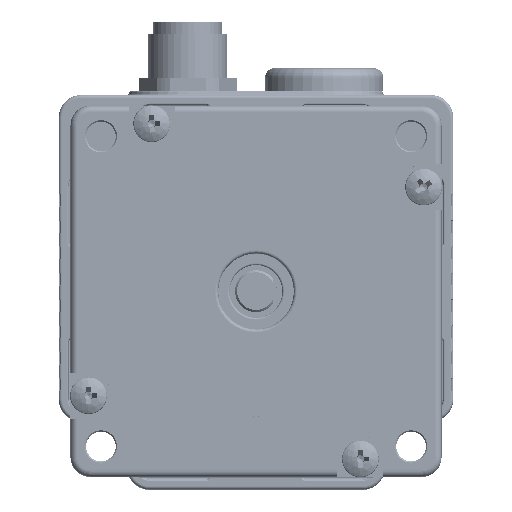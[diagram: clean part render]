
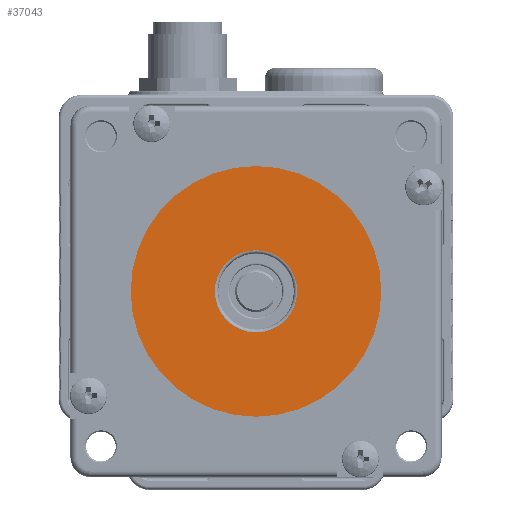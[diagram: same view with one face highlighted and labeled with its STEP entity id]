
A CAD part, top view. The second image highlights one B-rep face of the part: STEP entity #37043.
In plain terms, the highlighted planar face has unit normal (0, 0, 1).
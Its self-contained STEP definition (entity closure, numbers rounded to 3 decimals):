
#1206 = CARTESIAN_POINT ( 'NONE',  ( -60.25, -2.918, 33.1 ) ) ;
#8525 = EDGE_LOOP ( 'NONE', ( #230444, #195196 ) ) ;
#27392 = DIRECTION ( 'NONE',  ( 0., 0., 1. ) ) ;
#35860 = DIRECTION ( 'NONE',  ( 0., 0., -1. ) ) ;
#37043 = ADVANCED_FACE ( 'NONE', ( #156505, #84893 ), #206672, .T. ) ;
#41822 = VERTEX_POINT ( 'NONE', #1206 ) ;
#47416 = EDGE_CURVE ( 'NONE', #59087, #41822, #233920, .T. ) ;
#47888 = DIRECTION ( 'NONE',  ( 0., 0., 1. ) ) ;
#51696 = CARTESIAN_POINT ( 'NONE',  ( -54., -2.918, 33.1 ) ) ;
#59087 = VERTEX_POINT ( 'NONE', #86081 ) ;
#68885 = VERTEX_POINT ( 'NONE', #107129 ) ;
#78815 = EDGE_CURVE ( 'NONE', #41822, #59087, #115780, .T. ) ;
#80671 = DIRECTION ( 'NONE',  ( 1., 0., 0. ) ) ;
#84893 = FACE_OUTER_BOUND ( 'NONE', #8525, .T. ) ;
#86081 = CARTESIAN_POINT ( 'NONE',  ( -47.75, -2.918, 33.1 ) ) ;
#89208 = AXIS2_PLACEMENT_3D ( 'NONE', #51696, #124512, #138820 ) ;
#99096 = CARTESIAN_POINT ( 'NONE',  ( -54., -2.918, 33.1 ) ) ;
#101708 = DIRECTION ( 'NONE',  ( 1., 0., 0. ) ) ;
#107129 = CARTESIAN_POINT ( 'NONE',  ( -34.95, -2.918, 33.1 ) ) ;
#115780 = CIRCLE ( 'NONE', #127139, 6.25 ) ;
#119095 = ORIENTED_EDGE ( 'NONE', *, *, #78815, .T. ) ;
#124512 = DIRECTION ( 'NONE',  ( 0., 0., -1. ) ) ;
#126643 = AXIS2_PLACEMENT_3D ( 'NONE', #137440, #47888, #101708 ) ;
#127139 = AXIS2_PLACEMENT_3D ( 'NONE', #161233, #35860, #195875 ) ;
#135698 = CARTESIAN_POINT ( 'NONE',  ( -73.05, -2.918, 33.1 ) ) ;
#137209 = DIRECTION ( 'NONE',  ( 1., 0., 0. ) ) ;
#137440 = CARTESIAN_POINT ( 'NONE',  ( -25.8, -31.118, 33.1 ) ) ;
#138820 = DIRECTION ( 'NONE',  ( 1., 0., 0. ) ) ;
#150150 = EDGE_CURVE ( 'NONE', #68885, #154099, #162965, .T. ) ;
#154099 = VERTEX_POINT ( 'NONE', #135698 ) ;
#156505 = FACE_BOUND ( 'NONE', #216191, .T. ) ;
#161233 = CARTESIAN_POINT ( 'NONE',  ( -54., -2.918, 33.1 ) ) ;
#162965 = CIRCLE ( 'NONE', #212469, 19.05 ) ;
#169302 = ORIENTED_EDGE ( 'NONE', *, *, #47416, .T. ) ;
#194165 = CIRCLE ( 'NONE', #232071, 19.05 ) ;
#195196 = ORIENTED_EDGE ( 'NONE', *, *, #223422, .T. ) ;
#195875 = DIRECTION ( 'NONE',  ( 1., 0., 0. ) ) ;
#203609 = DIRECTION ( 'NONE',  ( 0., 0., 1. ) ) ;
#206672 = PLANE ( 'NONE',  #126643 ) ;
#212469 = AXIS2_PLACEMENT_3D ( 'NONE', #225036, #203609, #80671 ) ;
#216191 = EDGE_LOOP ( 'NONE', ( #169302, #119095 ) ) ;
#223422 = EDGE_CURVE ( 'NONE', #154099, #68885, #194165, .T. ) ;
#225036 = CARTESIAN_POINT ( 'NONE',  ( -54., -2.918, 33.1 ) ) ;
#230444 = ORIENTED_EDGE ( 'NONE', *, *, #150150, .T. ) ;
#232071 = AXIS2_PLACEMENT_3D ( 'NONE', #99096, #27392, #137209 ) ;
#233920 = CIRCLE ( 'NONE', #89208, 6.25 ) ;
